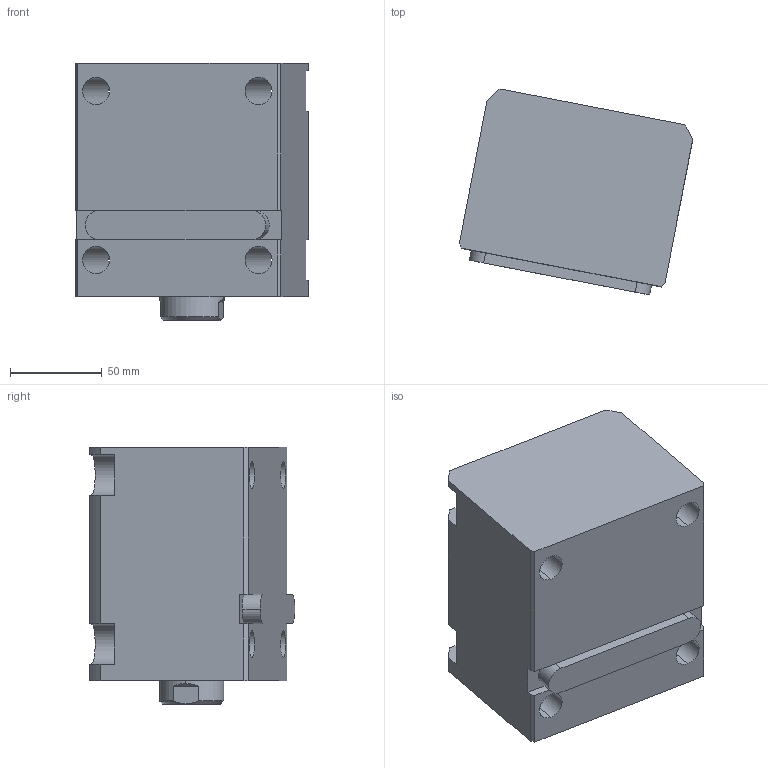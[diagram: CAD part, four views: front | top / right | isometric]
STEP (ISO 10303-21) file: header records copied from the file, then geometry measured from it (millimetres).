
FILE_DESCRIPTION (( 'STEP AP214' ), '1' );
FILE_NAME ('chtb-la63x60n_asm.STEP', '2018-05-02T04:15:51', ( 'Windows' ), ( 'Microsoft' ), 'SwSTEP 2.0', 'SolidWorks 2015', '' );
FILE_SCHEMA (( 'AUTOMOTIVE_DESIGN' ));
Length unit declared in the file: millimetre
Products named in the file (5): CHTB-LA63X60NBT; CHTB-LA63PJ; CHTB63X60NHSG; CHTB-63QG; chtb-la63x60n_asm
Assembly tree (4 placements, depth 2):
  chtb-la63x60n_asm
    CHTB-63QG
    CHTB63X60NHSG
    CHTB-LA63PJ
    CHTB-LA63X60NBT
Bounding box: 127 x 111.96 x 140 mm (x, y, z)
Volume: 1081285.2 mm3; surface area: 159225 mm2
Topology: 4 solids, 4 shells, 174 faces, 510 edges, 348 vertices
Faces by surface type: cylinder 98, plane 45, bspline 12, cone 12, torus 7
Entity records: 18199 total; most frequent: CARTESIAN_POINT 13678, ORIENTED_EDGE 1008, DIRECTION 778, EDGE_CURVE 504, VERTEX_POINT 348, AXIS2_PLACEMENT_3D 295, EDGE_LOOP 198, LINE 188
